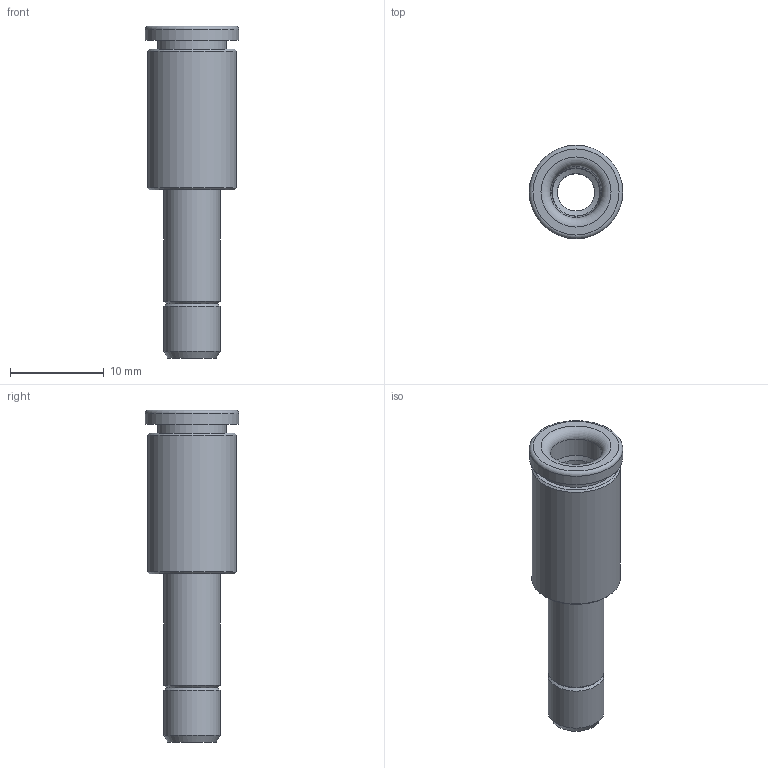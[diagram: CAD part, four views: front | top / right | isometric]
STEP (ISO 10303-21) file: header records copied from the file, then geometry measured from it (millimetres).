
FILE_DESCRIPTION(('Bauteilbeschreibung','HiCAD-Model','HiCAD-STEP-TRANSLATION','Bauteilbeschreibung'),'2;1');
FILE_NAME('B:/ABGLEICH/ZEICHNUNGEN/STEP FÜR INTERNET/STEP/IPSO 08/200803_IPSO_08_6_5.STP','2012-03-13T14:23:17+00:00',('Konstrukteur'),('Konstrukteur Firma GmbH'),' HiCAD neXt 2008, Step 3.1.1401.2J ','HiCAD neXt 2008','confidential');
FILE_SCHEMA(('AUTOMOTIVE_DESIGN { 1 2 10303 214 0 1 1 1 }'));
Length unit declared in the file: millimetre
Products named in the file (3): A00803_IPSO_08_6_5; R200803; DR5_1
Assembly tree (2 placements, depth 2):
  A00803_IPSO_08_6_5
    R200803
    DR5_1
Bounding box: 10 x 10 x 35.5 mm (x, y, z)
Volume: 982.3 mm3; surface area: 1867.4 mm2
Topology: 2 solids, 2 shells, 33 faces, 61 edges, 36 vertices
Faces by surface type: cylinder 11, cone 10, plane 8, torus 4
Full cylindrical faces by diameter (mm): 4 x1, 5.1 x1, 5.2 x1, 5.5 x1, 6 x3, 7.3 x1, 7.5 x1, 9.5 x1, 10 x1
Entity records: 913 total; most frequent: DIRECTION 140, CARTESIAN_POINT 103, AXIS2_PLACEMENT_3D 70, EDGE_LOOP 66, ORIENTED_EDGE 66, COLOUR_RGB 35, PRESENTATION_STYLE_ASSIGNMENT 35, ADVANCED_FACE 33
